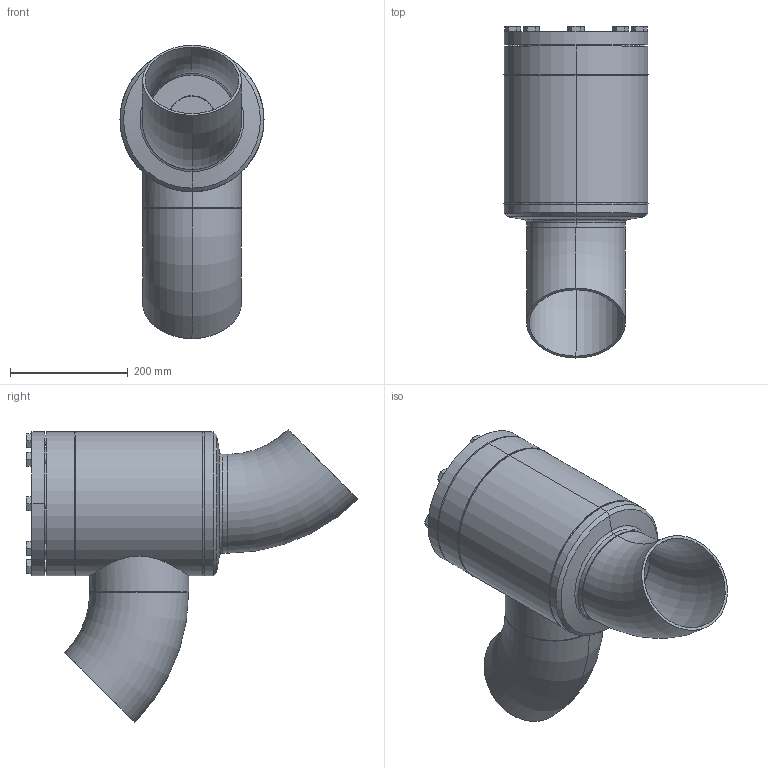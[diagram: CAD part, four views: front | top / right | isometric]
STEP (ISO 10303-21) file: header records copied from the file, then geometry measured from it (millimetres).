
FILE_DESCRIPTION (( 'STEP AP214' ), '1' );
FILE_NAME ('RV28300D21-DN150_R1_PS40.STEP', '2006-04-28T05:17:03', ( 'Herr Grams' ), ( 'AWP GmbH' ), 'SwSTEP 2.0', 'SolidWorks 2002296', '' );
FILE_SCHEMA (( 'AUTOMOTIVE_DESIGN' ));
Length unit declared in the file: millimetre
Products named in the file (17): RV28300D21-DN150_R1_PS40; Gehäuse-kpl16300-DN150_R1_Standard; Boden16300-DN150_Standard; Gehäuse16300-DN150_Standard; Kopfstück16300-DN150_Standard; Rohrstutzen-A16300-DN150_R1_Standard; Rohrbogen 45°_Rohrbogen-DN150-45°; bead-DN150-2_Standard; bead-DN150-1_Standard; bead-DN150-3_Standard; bead-DN150-4_Standard; RV28300E21_Deck+Schr-DN150_Standard; Deckel-kpl28300E21-DN150_Standard; Buchse f Deckel28300-DN150_Standard; Scheibe f Deckel28300-DN150_Standard; bead-deck283-150_Standard; Sechskantschraube-DIN933_M16x 45
Assembly tree (26 placements, depth 4):
  RV28300D21-DN150_R1_PS40
    RV28300E21_Deck+Schr-DN150_Standard
      Deckel-kpl28300E21-DN150_Standard
        bead-deck283-150_Standard
        Scheibe f Deckel28300-DN150_Standard
        Buchse f Deckel28300-DN150_Standard
      Sechskantschraube-DIN933_M16x 45  x8
    Gehäuse-kpl16300-DN150_R1_Standard
      Rohrbogen 45°_Rohrbogen-DN150-45°  x2
      bead-DN150-4_Standard  x2
      Boden16300-DN150_Standard
      bead-DN150-2_Standard
      bead-DN150-1_Standard  x2
      bead-DN150-3_Standard
      Kopfstück16300-DN150_Standard
      Gehäuse16300-DN150_Standard
      Rohrstutzen-A16300-DN150_R1_Standard
Bounding box: 245.28 x 564.93 x 499.01 mm (x, y, z)
Volume: 6477808.5 mm3; surface area: 1327667.3 mm2
Topology: 23 solids, 23 shells, 327 faces, 690 edges, 418 vertices
Faces by surface type: cone 120, plane 104, cylinder 67, bspline 26, torus 10
Entity records: 7485 total; most frequent: CARTESIAN_POINT 3759, DIRECTION 626, ORIENTED_EDGE 580, EDGE_CURVE 290, AXIS2_PLACEMENT_3D 278, VERTEX_POINT 184, EDGE_LOOP 174, FACE_OUTER_BOUND 134
